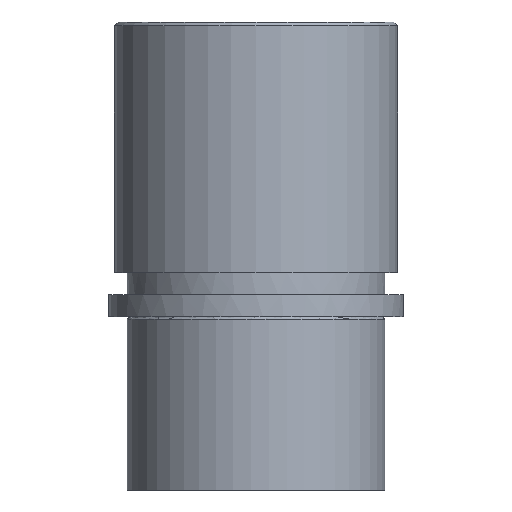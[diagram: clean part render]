
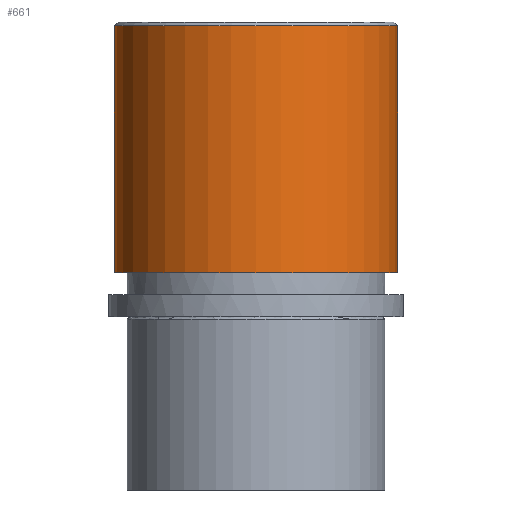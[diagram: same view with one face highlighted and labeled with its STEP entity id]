
A CAD part, front view. The second image highlights one B-rep face of the part: STEP entity #661.
In plain terms, the highlighted cylindrical face has radius 38.4 mm (diameter 76.8 mm), a partial arc.
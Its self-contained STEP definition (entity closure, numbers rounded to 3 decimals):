
#505=CARTESIAN_POINT('Vertex',(-38.4,0.,79.)) ;
#512=CARTESIAN_POINT('Vertex',(38.4,0.,79.)) ;
#532=CARTESIAN_POINT('Axis2P3D Location',(0.,0.,79.)) ;
#619=CARTESIAN_POINT('Line Origine',(-38.4,0.,80.)) ;
#623=CARTESIAN_POINT('Vertex',(-38.4,0.,12.)) ;
#626=CARTESIAN_POINT('Line Origine',(38.4,0.,80.)) ;
#630=CARTESIAN_POINT('Vertex',(38.4,0.,12.)) ;
#645=CARTESIAN_POINT('Axis2P3D Location',(0.,0.,80.)) ;
#650=CARTESIAN_POINT('Axis2P3D Location',(0.,0.,12.)) ;
#533=DIRECTION('Axis2P3D Direction',(0.,0.,-1.)) ;
#620=DIRECTION('Vector Direction',(0.,0.,-1.)) ;
#627=DIRECTION('Vector Direction',(0.,0.,-1.)) ;
#646=DIRECTION('Axis2P3D Direction',(0.,0.,-1.)) ;
#647=DIRECTION('Axis2P3D XDirection',(1.,0.,0.)) ;
#651=DIRECTION('Axis2P3D Direction',(0.,0.,-1.)) ;
#534=AXIS2_PLACEMENT_3D('Circle Axis2P3D',#532,#533,$) ;
#648=AXIS2_PLACEMENT_3D('Cylinder Axis2P3D',#645,#646,#647) ;
#652=AXIS2_PLACEMENT_3D('Circle Axis2P3D',#650,#651,$) ;
#656=ORIENTED_EDGE('',*,*,#632,.T.) ;
#657=ORIENTED_EDGE('',*,*,#536,.F.) ;
#658=ORIENTED_EDGE('',*,*,#625,.T.) ;
#659=ORIENTED_EDGE('',*,*,#654,.T.) ;
#621=VECTOR('Line Direction',#620,1.) ;
#628=VECTOR('Line Direction',#627,1.) ;
#661=ADVANCED_FACE('733-48',(#660),#649,.T.) ;
#535=CIRCLE('generated circle',#534,38.4) ;
#653=CIRCLE('generated circle',#652,38.4) ;
#649=CYLINDRICAL_SURFACE('generated cylinder',#648,38.4) ;
#536=EDGE_CURVE('',#506,#513,#535,.F.) ;
#625=EDGE_CURVE('',#506,#624,#622,.T.) ;
#632=EDGE_CURVE('',#631,#513,#629,.F.) ;
#654=EDGE_CURVE('',#624,#631,#653,.F.) ;
#655=EDGE_LOOP('',(#656,#657,#658,#659)) ;
#660=FACE_OUTER_BOUND('',#655,.T.) ;
#622=LINE('Line',#619,#621) ;
#629=LINE('Line',#626,#628) ;
#506=VERTEX_POINT('',#505) ;
#513=VERTEX_POINT('',#512) ;
#624=VERTEX_POINT('',#623) ;
#631=VERTEX_POINT('',#630) ;
